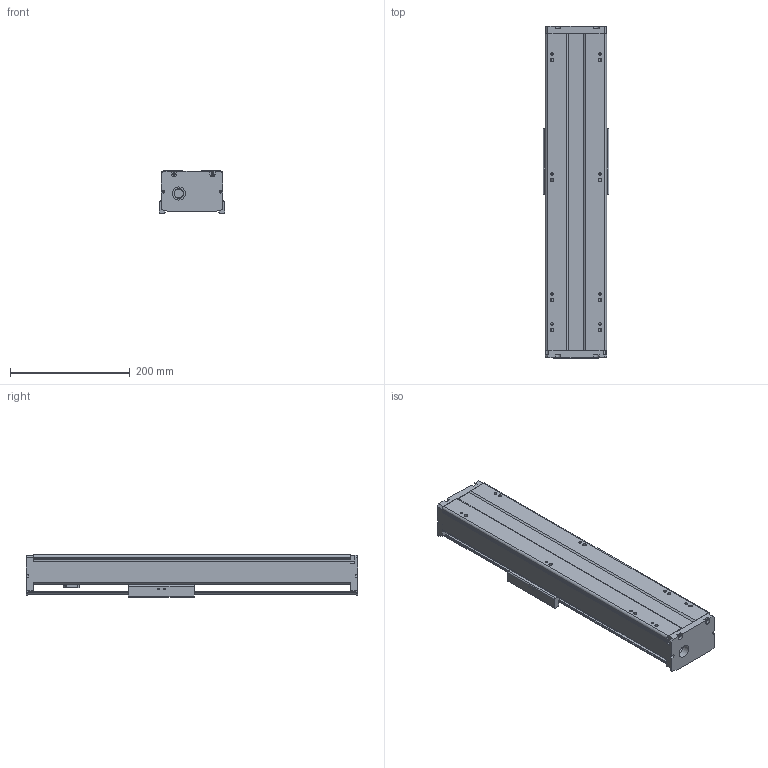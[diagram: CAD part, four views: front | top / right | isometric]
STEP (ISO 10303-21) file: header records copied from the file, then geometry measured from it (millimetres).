
FILE_DESCRIPTION(/* description */ (''),/* implementation_level */ '2;1');
FILE_NAME(/* name */ 'TKA100-300A1F0_asm1.stp',/* time_stamp */ '2017-02-20T15:03:11+08:00',/* author */ (''),/* organization */ (''),/* preprocessor_version */ 'ST-DEVELOPER v15',/* originating_system */ 'SIEMENS PLM Software NX 8.5',/* authorisation */ '');
FILE_SCHEMA (('AUTOMOTIVE_DESIGN { 1 0 10303 214 3 1 1 1 }'));
Length unit declared in the file: millimetre
Products named in the file (3): 200-02; 200-01; TKA100-300A1F0_asm1_stp
Assembly tree (2 placements, depth 2):
  TKA100-300A1F0_asm1_stp
    200-01
    200-02
Bounding box: 110 x 554 x 71 mm (x, y, z)
Volume: 1324894.1 mm3; surface area: 427960.9 mm2
Topology: 2 solids, 8 shells, 675 faces, 1800 edges, 1175 vertices
Faces by surface type: cylinder 261, plane 255, cone 106, torus 27, bspline 26
Full cylindrical faces by diameter (mm): 2.5 x6, 2.6 x8, 3.3 x8, 3.4 x8, 3.8 x4, 4.2 x17, 4.3 x4, 4.5 x4, 5 x1, 5.5 x16, 6.6 x4, 8 x5, 9 x4, 10 x8, 11 x4, 12 x6, 12.05 x2, 15.3 x1, 15.4 x1, 16 x1, 17 x2, 18 x1, 22 x1, 24 x1, 28 x5, 30 x1
Entity records: 25576 total; most frequent: CARTESIAN_POINT 9784, DIRECTION 3219, ORIENTED_EDGE 3032, EDGE_CURVE 1516, AXIS2_PLACEMENT_3D 1283, VERTEX_POINT 1105, EDGE_LOOP 970, ADVANCED_FACE 675
